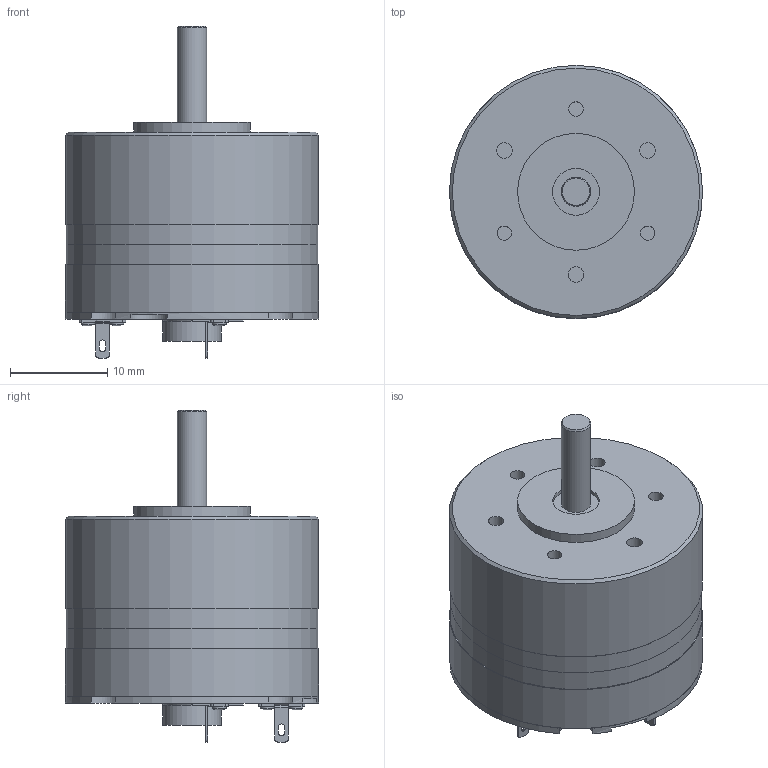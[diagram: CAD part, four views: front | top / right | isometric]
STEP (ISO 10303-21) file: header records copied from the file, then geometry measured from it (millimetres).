
FILE_DESCRIPTION(/* description */ (''),/* implementation_level */ '2;1');
FILE_NAME(/* name */ '2619S_SR.stp',/* time_stamp */ '2017-07-31T10:40:18+02:00',/* author */ ('DR. FRITZ FAULHABER GmbH & Co. KG'),/* organization */ ('DR. FRITZ FAULHABER GmbH & Co. KG'),/* preprocessor_version */ 'ST-DEVELOPER v16',/* originating_system */ 'SIEMENS PLM Software NX 10.0',/* authorisation */ '');
FILE_SCHEMA (('AUTOMOTIVE_DESIGN { 1 0 10303 214 3 1 1 1 }'));
Length unit declared in the file: millimetre
Products named in the file (1): Alle_Motoren
Bounding box: 26 x 26 x 34.1 mm (x, y, z)
Volume: 10352.6 mm3; surface area: 2966.4 mm2
Topology: 1 solids, 1 shells, 144 faces, 360 edges, 237 vertices
Faces by surface type: cylinder 66, plane 65, bspline 6, sphere 4, cone 2, torus 1
Full cylindrical faces by diameter (mm): 1.4 x4, 1.48 x3, 1.6 x3, 3 x1, 4.8 x1, 6 x1, 12 x1, 25.799 x1, 25.8 x2, 25.99 x1, 26 x2
Entity records: 4218 total; most frequent: CARTESIAN_POINT 783, DIRECTION 762, ORIENTED_EDGE 644, EDGE_CURVE 322, AXIS2_PLACEMENT_3D 301, VERTEX_POINT 226, EDGE_LOOP 194, LINE 160
